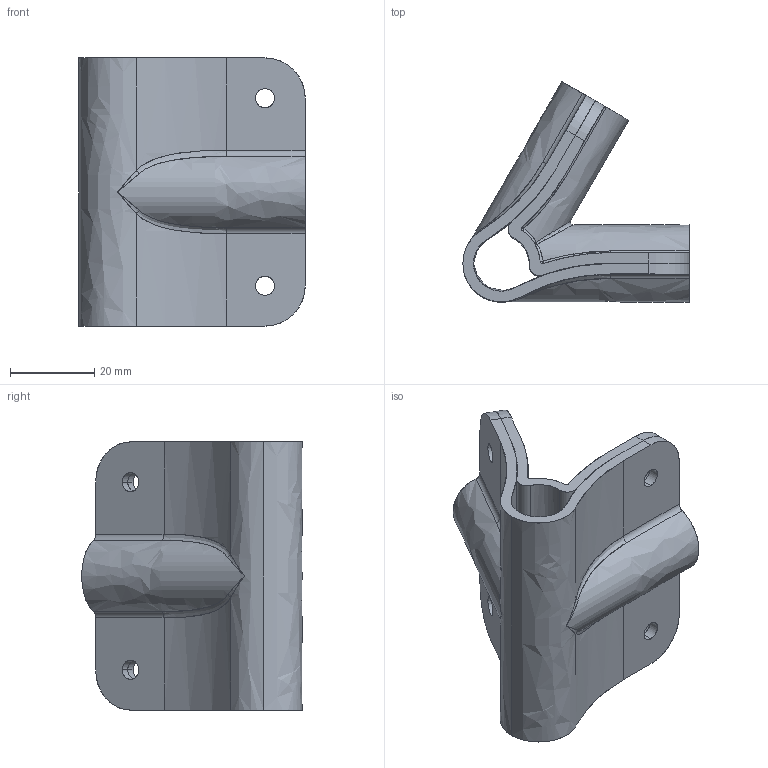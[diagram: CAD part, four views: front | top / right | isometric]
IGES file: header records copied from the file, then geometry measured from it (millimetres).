
Start section: SolidWorks IGES file using analytic representation for surfaces
Global section: file name: C:\Working\.5 Inch Coupling\DRP-002-0104.IGS; native system: SolidWorks 2010; preprocessor: SolidWorks 2010; author: mbush2; date: 100812.144910; units: inch
Bounding box: 53.59 x 52.21 x 63.5 mm (x, y, z)
Surface area: 26590.9 mm2 (no closed solid volume)
Topology: 0 solids, 0 shells, 178 faces, 2528 edges, 2522 vertices
Faces by surface type: revolution 104, bspline 74
